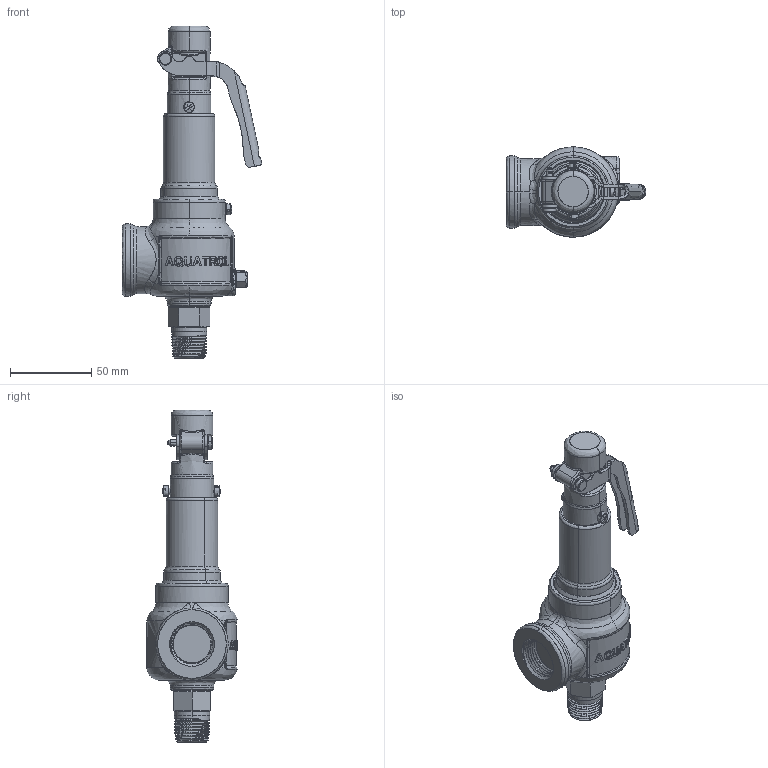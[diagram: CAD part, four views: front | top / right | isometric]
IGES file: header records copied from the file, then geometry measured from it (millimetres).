
Start section: SolidWorks IGES file using NURBS representation for surfaces
Global section: file name: C:\Design\Design\Aquatrol\Customer 3D Files\Series 740 Customer Files\D Orifice\Customer\Iges Files\Series 740 D 500 x 750 Open Lever.IGS; native system: SolidWorks 2015; preprocessor: SolidWorks 2015; author: Karl; date: 150515.081402; units: inch
Bounding box: 86.11 x 55.56 x 204.47 mm (x, y, z)
Surface area: 36604.5 mm2 (no closed solid volume)
Topology: 0 solids, 0 shells, 555 faces, 8827 edges, 8827 vertices
Faces by surface type: bspline 555
